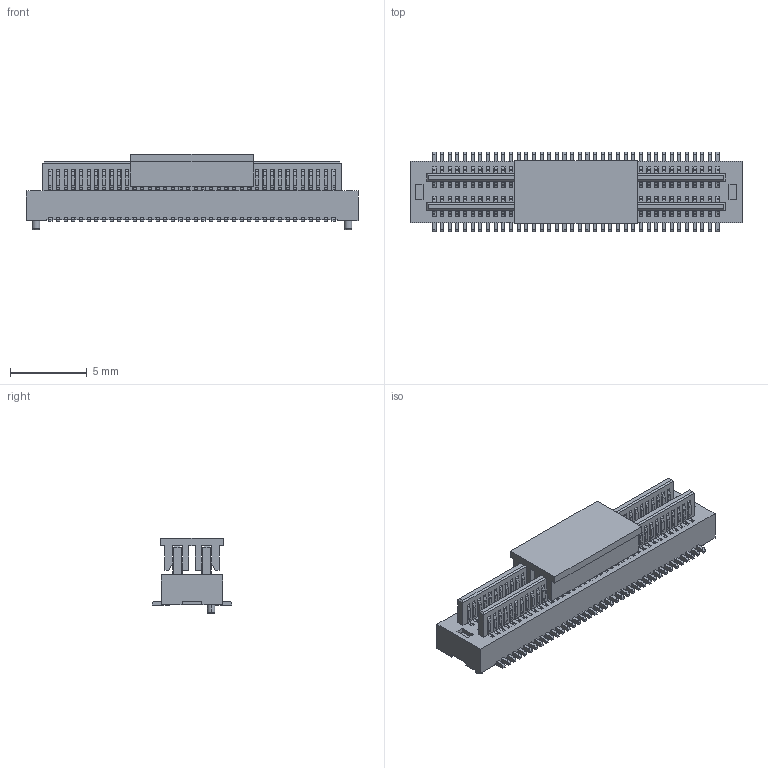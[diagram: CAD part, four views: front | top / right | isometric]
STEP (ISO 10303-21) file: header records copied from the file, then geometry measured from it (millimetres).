
FILE_DESCRIPTION(('CATIA V5 STEP Exchange'),'2;1');
FILE_NAME('F:\黄富鸿\板对板\PBB05\公座\H2.0\编带+盖\HC-PBB05-2-76-M-H2.0-G1-R-P-04（BTB0.5 双槽 公座 立贴 带柱 编带+盖）-HCTL.stp','2025-12-18T01:31:48+00:00',('none'),('none'),'CATIA Version 5 Release 20 GA (IN-10)','CATIA V5 STEP AP203','none');
FILE_SCHEMA(('CONFIG_CONTROL_DESIGN'));
Products named in the file (1): Part2
Bounding box: 21.7 x 5.2 x 4.95 mm (x, y, z)
Volume: 238.9 mm3; surface area: 1814.7 mm2
Topology: 78 solids, 78 shells, 4336 faces, 13270 edges, 8792 vertices
Faces by surface type: plane 2808, cylinder 1524, torus 4
Entity records: 126987 total; most frequent: ORIENTED_EDGE 26540, CARTESIAN_POINT 23572, DIRECTION 14160, EDGE_CURVE 13270, VECTOR 9910, LINE 9910, VERTEX_POINT 8792, EDGE_LOOP 4342
